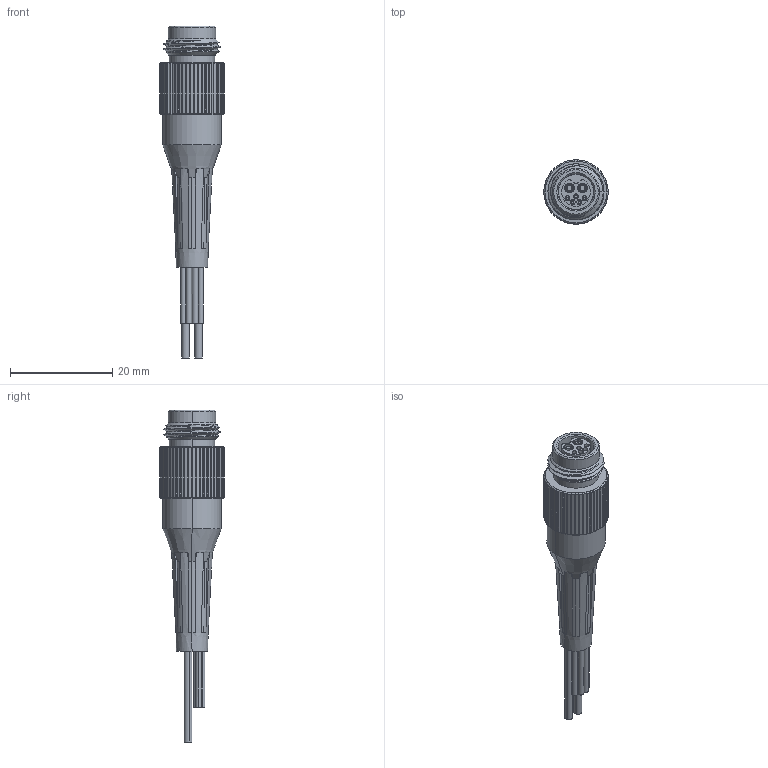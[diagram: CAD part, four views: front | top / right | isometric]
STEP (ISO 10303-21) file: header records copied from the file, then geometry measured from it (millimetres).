
FILE_DESCRIPTION (( 'STEP AP214' ), '1' );
FILE_NAME ('A90116-001 REV A.STEP', '2018-01-24T17:39:22', ( '' ), ( '' ), 'SwSTEP 2.0', 'SolidWorks 2017', '' );
FILE_SCHEMA (( 'AUTOMOTIVE_DESIGN' ));
Length unit declared in the file: inch
Products named in the file (1): A90116-001 REV_A
Bounding box: 12.59 x 12.6 x 65.06 mm (x, y, z)
Volume: 2815.3 mm3; surface area: 4083.3 mm2
Topology: 1 solids, 1 shells, 398 faces, 1029 edges, 663 vertices
Faces by surface type: cylinder 163, plane 162, cone 52, torus 16, bspline 3, sphere 2
Entity records: 13834 total; most frequent: CARTESIAN_POINT 4219, ORIENTED_EDGE 2058, DIRECTION 1967, EDGE_CURVE 1029, AXIS2_PLACEMENT_3D 805, VERTEX_POINT 663, EDGE_LOOP 440, CIRCLE 409
